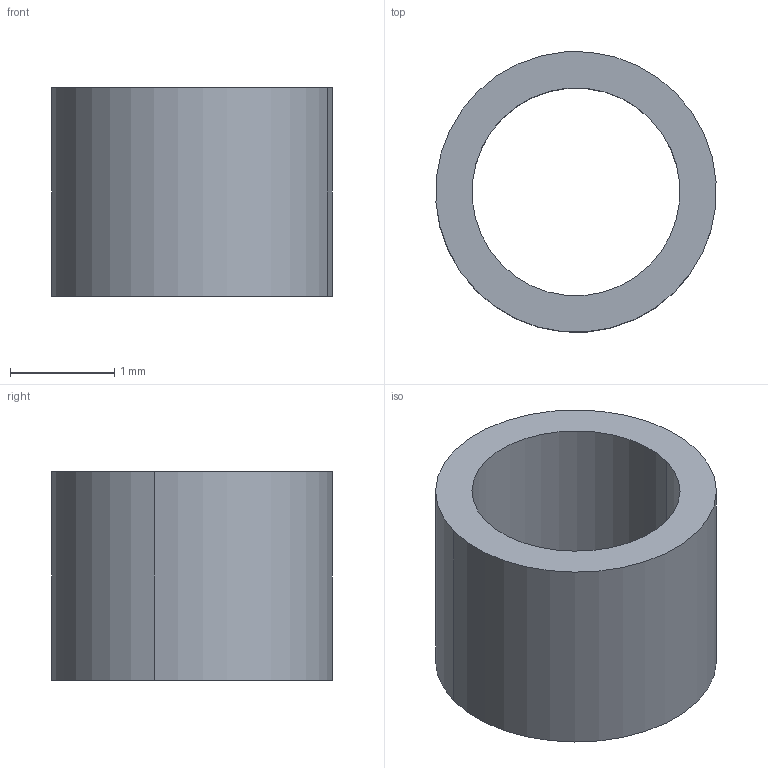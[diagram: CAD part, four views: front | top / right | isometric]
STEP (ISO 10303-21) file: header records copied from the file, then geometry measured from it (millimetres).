
FILE_DESCRIPTION(('Open CASCADE Model'),'2;1');
FILE_NAME('Open CASCADE Shape Model','2026-09-19T11:07:51',('Author'),( 'Open CASCADE'),'Open CASCADE STEP processor 7.9','Open CASCADE 7.9' ,'Unknown');
FILE_SCHEMA(('AUTOMOTIVE_DESIGN { 1 0 10303 214 1 1 1 1 }'));
Length unit declared in the file: millimetre
Products named in the file (1): Open CASCADE STEP translator 7.9 45
Bounding box: 2.69 x 2.69 x 2 mm (x, y, z)
Volume: 5.2 mm3; surface area: 34.7 mm2
Topology: 1 solids, 1 shells, 6 faces, 12 edges, 8 vertices
Faces by surface type: cylinder 4, plane 2
Entity records: 334 total; most frequent: DIRECTION 58, CARTESIAN_POINT 51, ORIENTED_EDGE 24, PCURVE 24, DEFINITIONAL_REPRESENTATION 24, LINE 20, VECTOR 20, CIRCLE 16
